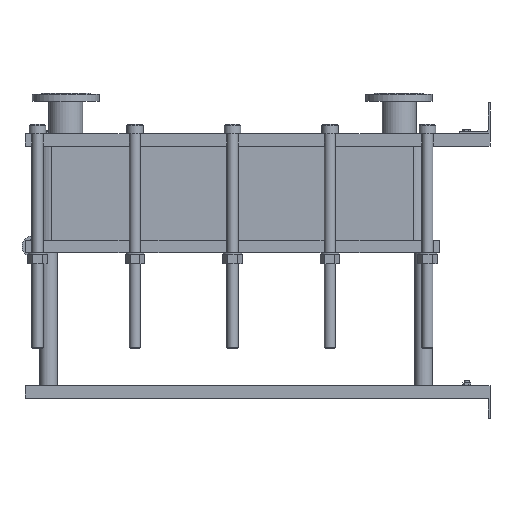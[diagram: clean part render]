
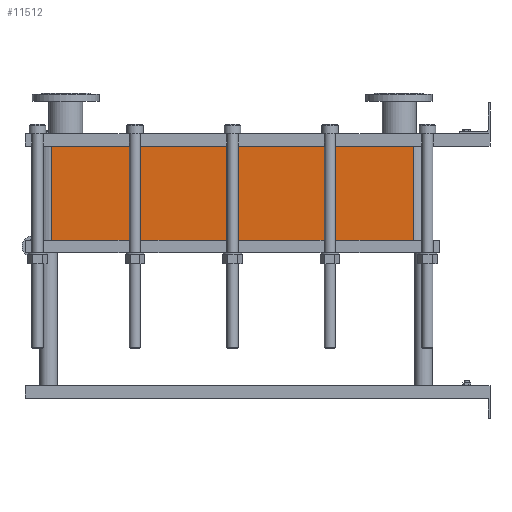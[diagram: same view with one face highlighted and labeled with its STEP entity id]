
A CAD part, left-side view. The second image highlights one B-rep face of the part: STEP entity #11512.
In plain terms, the highlighted planar face has unit normal (-1, 0, 0).
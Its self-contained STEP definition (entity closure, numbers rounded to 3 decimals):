
#1129=LINE('',#23232,#2102);
#1130=LINE('',#23236,#2103);
#1131=LINE('',#23238,#2104);
#1132=LINE('',#23239,#2105);
#2102=VECTOR('',#15887,10.);
#2103=VECTOR('',#15892,10.);
#2104=VECTOR('',#15893,10.);
#2105=VECTOR('',#15894,10.);
#3267=FACE_OUTER_BOUND('',#4093,.T.);
#4093=EDGE_LOOP('',(#10103,#10104,#10105,#10106));
#5642=VERTEX_POINT('',#23229);
#5643=VERTEX_POINT('',#23231);
#5644=VERTEX_POINT('',#23235);
#5645=VERTEX_POINT('',#23237);
#7159=EDGE_CURVE('',#5643,#5642,#1129,.T.);
#7161=EDGE_CURVE('',#5642,#5644,#1130,.T.);
#7162=EDGE_CURVE('',#5645,#5644,#1131,.T.);
#7163=EDGE_CURVE('',#5645,#5643,#1132,.T.);
#10103=ORIENTED_EDGE('',*,*,#7161,.T.);
#10104=ORIENTED_EDGE('',*,*,#7162,.F.);
#10105=ORIENTED_EDGE('',*,*,#7163,.T.);
#10106=ORIENTED_EDGE('',*,*,#7159,.T.);
#10857=PLANE('',#12751);
#11512=ADVANCED_FACE('',(#3267),#10857,.T.);
#12751=AXIS2_PLACEMENT_3D('',#23234,#15890,#15891);
#15887=DIRECTION('',(0.,0.,-1.));
#15890=DIRECTION('center_axis',(-1.,0.,0.));
#15891=DIRECTION('ref_axis',(0.,1.,0.));
#15892=DIRECTION('',(0.,-1.,0.));
#15893=DIRECTION('',(0.,0.,-1.));
#15894=DIRECTION('',(0.,1.,0.));
#23229=CARTESIAN_POINT('',(-200.,1414.,-303.6));
#23231=CARTESIAN_POINT('',(-200.,1414.,0.));
#23232=CARTESIAN_POINT('',(-200.,1414.,0.));
#23234=CARTESIAN_POINT('Origin',(-200.,248.,0.));
#23235=CARTESIAN_POINT('',(-200.,248.,-303.6));
#23236=CARTESIAN_POINT('',(-200.,539.5,-303.6));
#23237=CARTESIAN_POINT('',(-200.,248.,0.));
#23238=CARTESIAN_POINT('',(-200.,248.,0.));
#23239=CARTESIAN_POINT('',(-200.,248.,0.));
